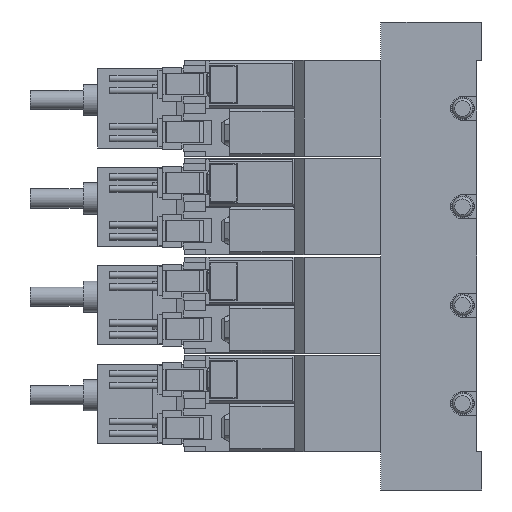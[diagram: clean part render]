
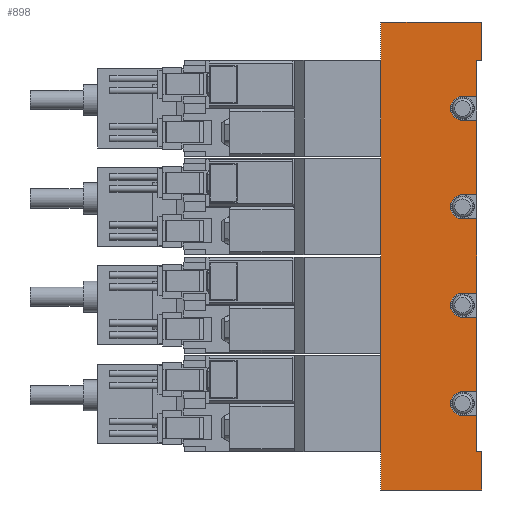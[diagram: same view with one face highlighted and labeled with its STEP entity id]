
A CAD part, left-side view. The second image highlights one B-rep face of the part: STEP entity #898.
In plain terms, the highlighted planar face has unit normal (-1, 0, 0) as drawn and (1, 0, 0) by its records, which use the part's own axes.
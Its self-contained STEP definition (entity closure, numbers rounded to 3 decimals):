
#898=ADVANCED_FACE('',(#1977),#1978,.F.);
#1977=FACE_OUTER_BOUND('',#3089,.T.);
#1978=PLANE('',#3090);
#3089=EDGE_LOOP('',(#6805,#6806,#6807,#6808,#6809,#6810,#6811,#6812,#6813,#6814,#6815,#6816,#6817,#6818,#6819,#6820,#6821,#6822,#6823,#6824,#6825,#6826,#6827,#6828));
#3090=AXIS2_PLACEMENT_3D('',#6829,#6830,#6831);
#6805=ORIENTED_EDGE('',*,*,#8113,.T.);
#6806=ORIENTED_EDGE('',*,*,#8068,.T.);
#6807=ORIENTED_EDGE('',*,*,#8124,.F.);
#6808=ORIENTED_EDGE('',*,*,#8079,.F.);
#6809=ORIENTED_EDGE('',*,*,#8152,.T.);
#6810=ORIENTED_EDGE('',*,*,#8025,.T.);
#6811=ORIENTED_EDGE('',*,*,#8049,.T.);
#6812=ORIENTED_EDGE('',*,*,#8153,.F.);
#6813=ORIENTED_EDGE('',*,*,#8143,.F.);
#6814=ORIENTED_EDGE('',*,*,#8154,.F.);
#6815=ORIENTED_EDGE('',*,*,#8046,.T.);
#6816=ORIENTED_EDGE('',*,*,#8099,.F.);
#6817=ORIENTED_EDGE('',*,*,#8128,.F.);
#6818=ORIENTED_EDGE('',*,*,#8155,.F.);
#6819=ORIENTED_EDGE('',*,*,#8042,.T.);
#6820=ORIENTED_EDGE('',*,*,#8084,.F.);
#6821=ORIENTED_EDGE('',*,*,#8138,.F.);
#6822=ORIENTED_EDGE('',*,*,#8156,.F.);
#6823=ORIENTED_EDGE('',*,*,#8038,.T.);
#6824=ORIENTED_EDGE('',*,*,#8157,.F.);
#6825=ORIENTED_EDGE('',*,*,#8158,.F.);
#6826=ORIENTED_EDGE('',*,*,#8145,.F.);
#6827=ORIENTED_EDGE('',*,*,#8034,.T.);
#6828=ORIENTED_EDGE('',*,*,#8098,.T.);
#6829=CARTESIAN_POINT('',(17.5,1.0,48.75));
#6830=DIRECTION('',(-1.0,0.0,0.0));
#6831=DIRECTION('',(0.0,0.0,1.0));
#8025=EDGE_CURVE('',#9924,#9921,#9925,.T.);
#8034=EDGE_CURVE('',#9942,#9939,#9943,.T.);
#8038=EDGE_CURVE('',#9950,#9948,#9951,.T.);
#8042=EDGE_CURVE('',#9958,#9956,#9959,.T.);
#8046=EDGE_CURVE('',#9966,#9964,#9967,.T.);
#8049=EDGE_CURVE('',#9921,#9969,#9971,.T.);
#8068=EDGE_CURVE('',#10006,#10007,#10008,.T.);
#8079=EDGE_CURVE('',#10027,#10029,#10030,.T.);
#8084=EDGE_CURVE('',#10038,#9956,#10039,.T.);
#8098=EDGE_CURVE('',#9939,#10061,#10063,.T.);
#8099=EDGE_CURVE('',#10064,#9964,#10065,.T.);
#8113=EDGE_CURVE('',#10061,#10006,#10088,.T.);
#8124=EDGE_CURVE('',#10029,#10007,#10104,.T.);
#8128=EDGE_CURVE('',#10109,#10064,#10111,.T.);
#8138=EDGE_CURVE('',#10124,#10038,#10126,.T.);
#8143=EDGE_CURVE('',#10131,#10133,#10134,.T.);
#8145=EDGE_CURVE('',#9942,#10136,#10137,.T.);
#8152=EDGE_CURVE('',#10027,#9924,#10147,.T.);
#8153=EDGE_CURVE('',#10133,#9969,#10148,.T.);
#8154=EDGE_CURVE('',#9966,#10131,#10149,.T.);
#8155=EDGE_CURVE('',#9958,#10109,#10150,.T.);
#8156=EDGE_CURVE('',#9950,#10124,#10151,.T.);
#8157=EDGE_CURVE('',#10152,#9948,#10153,.T.);
#8158=EDGE_CURVE('',#10136,#10152,#10154,.T.);
#9921=VERTEX_POINT('',#13010);
#9924=VERTEX_POINT('',#13014);
#9925=LINE('',#13015,#13016);
#9939=VERTEX_POINT('',#13034);
#9942=VERTEX_POINT('',#13038);
#9943=LINE('',#13039,#13040);
#9948=VERTEX_POINT('',#13047);
#9950=VERTEX_POINT('',#13050);
#9951=LINE('',#13051,#13052);
#9956=VERTEX_POINT('',#13059);
#9958=VERTEX_POINT('',#13062);
#9959=LINE('',#13063,#13064);
#9964=VERTEX_POINT('',#13071);
#9966=VERTEX_POINT('',#13074);
#9967=LINE('',#13075,#13076);
#9969=VERTEX_POINT('',#13079);
#9971=LINE('',#13082,#13083);
#10006=VERTEX_POINT('',#13253);
#10007=VERTEX_POINT('',#13254);
#10008=LINE('',#13255,#13256);
#10027=VERTEX_POINT('',#13283);
#10029=VERTEX_POINT('',#13286);
#10030=LINE('',#13287,#13288);
#10038=VERTEX_POINT('',#13297);
#10039=LINE('',#13298,#13299);
#10061=VERTEX_POINT('',#13327);
#10063=LINE('',#13330,#13331);
#10064=VERTEX_POINT('',#13332);
#10065=LINE('',#13333,#13334);
#10088=LINE('',#13360,#13361);
#10104=LINE('',#13379,#13380);
#10109=VERTEX_POINT('',#13385);
#10111=CIRCLE('',#13388,2.5);
#10124=VERTEX_POINT('',#13405);
#10126=CIRCLE('',#13408,2.5);
#10131=VERTEX_POINT('',#13413);
#10133=VERTEX_POINT('',#13416);
#10134=CIRCLE('',#13417,2.5);
#10136=VERTEX_POINT('',#13420);
#10137=LINE('',#13421,#13422);
#10147=LINE('',#13435,#13436);
#10148=LINE('',#13437,#13438);
#10149=LINE('',#13439,#13440);
#10150=LINE('',#13441,#13442);
#10151=LINE('',#13443,#13444);
#10152=VERTEX_POINT('',#13445);
#10153=LINE('',#13446,#13447);
#10154=CIRCLE('',#13448,2.5);
#13010=CARTESIAN_POINT('',(17.5,1.0,40.75));
#13014=CARTESIAN_POINT('',(17.5,0.0,40.75));
#13015=CARTESIAN_POINT('',(17.5,0.0,40.75));
#13016=VECTOR('',#14780,1.0);
#13034=CARTESIAN_POINT('',(17.5,1.0,-40.75));
#13038=CARTESIAN_POINT('',(17.5,1.0,-33.25));
#13039=CARTESIAN_POINT('',(17.5,1.0,48.75));
#13040=VECTOR('',#14795,1.0);
#13047=CARTESIAN_POINT('',(17.5,1.0,-28.25));
#13050=CARTESIAN_POINT('',(17.5,1.0,-12.75));
#13051=CARTESIAN_POINT('',(17.5,1.0,48.75));
#13052=VECTOR('',#14799,1.0);
#13059=CARTESIAN_POINT('',(17.5,1.0,-7.75));
#13062=CARTESIAN_POINT('',(17.5,1.0,7.75));
#13063=CARTESIAN_POINT('',(17.5,1.0,48.75));
#13064=VECTOR('',#14803,1.0);
#13071=CARTESIAN_POINT('',(17.5,1.0,12.75));
#13074=CARTESIAN_POINT('',(17.5,1.0,28.25));
#13075=CARTESIAN_POINT('',(17.5,1.0,48.75));
#13076=VECTOR('',#14807,1.0);
#13079=CARTESIAN_POINT('',(17.5,1.0,33.25));
#13082=CARTESIAN_POINT('',(17.5,1.0,48.75));
#13083=VECTOR('',#14810,1.0);
#13253=CARTESIAN_POINT('',(17.5,0.0,-48.75));
#13254=CARTESIAN_POINT('',(17.5,21.0,-48.75));
#13255=CARTESIAN_POINT('',(17.5,1.0,-48.75));
#13256=VECTOR('',#14850,1.0);
#13283=CARTESIAN_POINT('',(17.5,0.0,48.75));
#13286=CARTESIAN_POINT('',(17.5,21.0,48.75));
#13287=CARTESIAN_POINT('',(17.5,1.0,48.75));
#13288=VECTOR('',#14863,1.0);
#13297=CARTESIAN_POINT('',(17.5,4.0,-7.75));
#13298=CARTESIAN_POINT('',(17.5,1.0,-7.75));
#13299=VECTOR('',#14874,1.0);
#13327=CARTESIAN_POINT('',(17.5,0.0,-40.75));
#13330=CARTESIAN_POINT('',(17.5,4.0,-40.75));
#13331=VECTOR('',#14897,1.0);
#13332=CARTESIAN_POINT('',(17.5,4.0,12.75));
#13333=CARTESIAN_POINT('',(17.5,1.0,12.75));
#13334=VECTOR('',#14898,1.0);
#13360=CARTESIAN_POINT('',(17.5,0.0,-40.75));
#13361=VECTOR('',#14929,1.0);
#13379=CARTESIAN_POINT('',(17.5,21.0,48.75));
#13380=VECTOR('',#14953,1.0);
#13385=CARTESIAN_POINT('',(17.5,4.0,7.75));
#13388=AXIS2_PLACEMENT_3D('',#14961,#14962,#14963);
#13405=CARTESIAN_POINT('',(17.5,4.0,-12.75));
#13408=AXIS2_PLACEMENT_3D('',#14981,#14982,#14983);
#13413=CARTESIAN_POINT('',(17.5,4.0,28.25));
#13416=CARTESIAN_POINT('',(17.5,4.0,33.25));
#13417=AXIS2_PLACEMENT_3D('',#14991,#14992,#14993);
#13420=CARTESIAN_POINT('',(17.5,4.0,-33.25));
#13421=CARTESIAN_POINT('',(17.5,1.0,-33.25));
#13422=VECTOR('',#14995,1.0);
#13435=CARTESIAN_POINT('',(17.5,0.0,48.75));
#13436=VECTOR('',#15008,1.0);
#13437=CARTESIAN_POINT('',(17.5,1.0,33.25));
#13438=VECTOR('',#15009,1.0);
#13439=CARTESIAN_POINT('',(17.5,1.0,28.25));
#13440=VECTOR('',#15010,1.0);
#13441=CARTESIAN_POINT('',(17.5,1.0,7.75));
#13442=VECTOR('',#15011,1.0);
#13443=CARTESIAN_POINT('',(17.5,1.0,-12.75));
#13444=VECTOR('',#15012,1.0);
#13445=CARTESIAN_POINT('',(17.5,4.0,-28.25));
#13446=CARTESIAN_POINT('',(17.5,1.0,-28.25));
#13447=VECTOR('',#15013,1.0);
#13448=AXIS2_PLACEMENT_3D('',#15014,#15015,#15016);
#14780=DIRECTION('',(0.0,1.0,0.0));
#14795=DIRECTION('',(0.0,0.0,-1.0));
#14799=DIRECTION('',(0.0,0.0,-1.0));
#14803=DIRECTION('',(0.0,0.0,-1.0));
#14807=DIRECTION('',(0.0,0.0,-1.0));
#14810=DIRECTION('',(0.0,0.0,-1.0));
#14850=DIRECTION('',(0.0,1.0,0.0));
#14863=DIRECTION('',(0.0,1.0,0.0));
#14874=DIRECTION('',(0.0,-1.0,0.0));
#14897=DIRECTION('',(0.0,-1.0,0.0));
#14898=DIRECTION('',(0.0,-1.0,0.0));
#14929=DIRECTION('',(0.0,0.0,-1.0));
#14953=DIRECTION('',(0.0,0.0,-1.0));
#14961=CARTESIAN_POINT('',(17.5,4.0,10.25));
#14962=DIRECTION('',(1.0,0.0,-0.0));
#14963=DIRECTION('',(0.0,0.0,1.0));
#14981=CARTESIAN_POINT('',(17.5,4.0,-10.25));
#14982=DIRECTION('',(1.0,0.0,-0.0));
#14983=DIRECTION('',(0.0,0.0,1.0));
#14991=CARTESIAN_POINT('',(17.5,4.0,30.75));
#14992=DIRECTION('',(1.0,0.0,-0.0));
#14993=DIRECTION('',(0.0,0.0,1.0));
#14995=DIRECTION('',(0.0,1.0,0.0));
#15008=DIRECTION('',(0.0,0.0,-1.0));
#15009=DIRECTION('',(0.0,-1.0,0.0));
#15010=DIRECTION('',(0.0,1.0,0.0));
#15011=DIRECTION('',(0.0,1.0,0.0));
#15012=DIRECTION('',(0.0,1.0,0.0));
#15013=DIRECTION('',(0.0,-1.0,0.0));
#15014=CARTESIAN_POINT('',(17.5,4.0,-30.75));
#15015=DIRECTION('',(1.0,0.0,-0.0));
#15016=DIRECTION('',(0.0,0.0,1.0));
